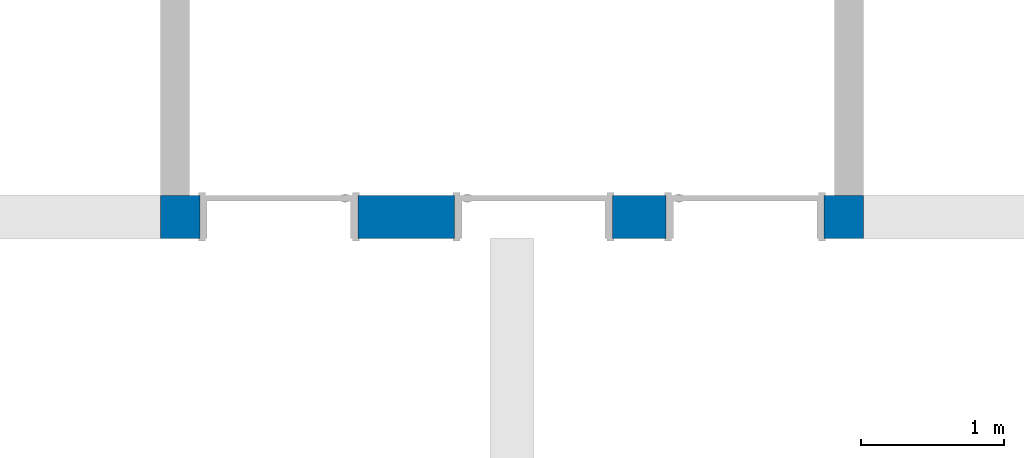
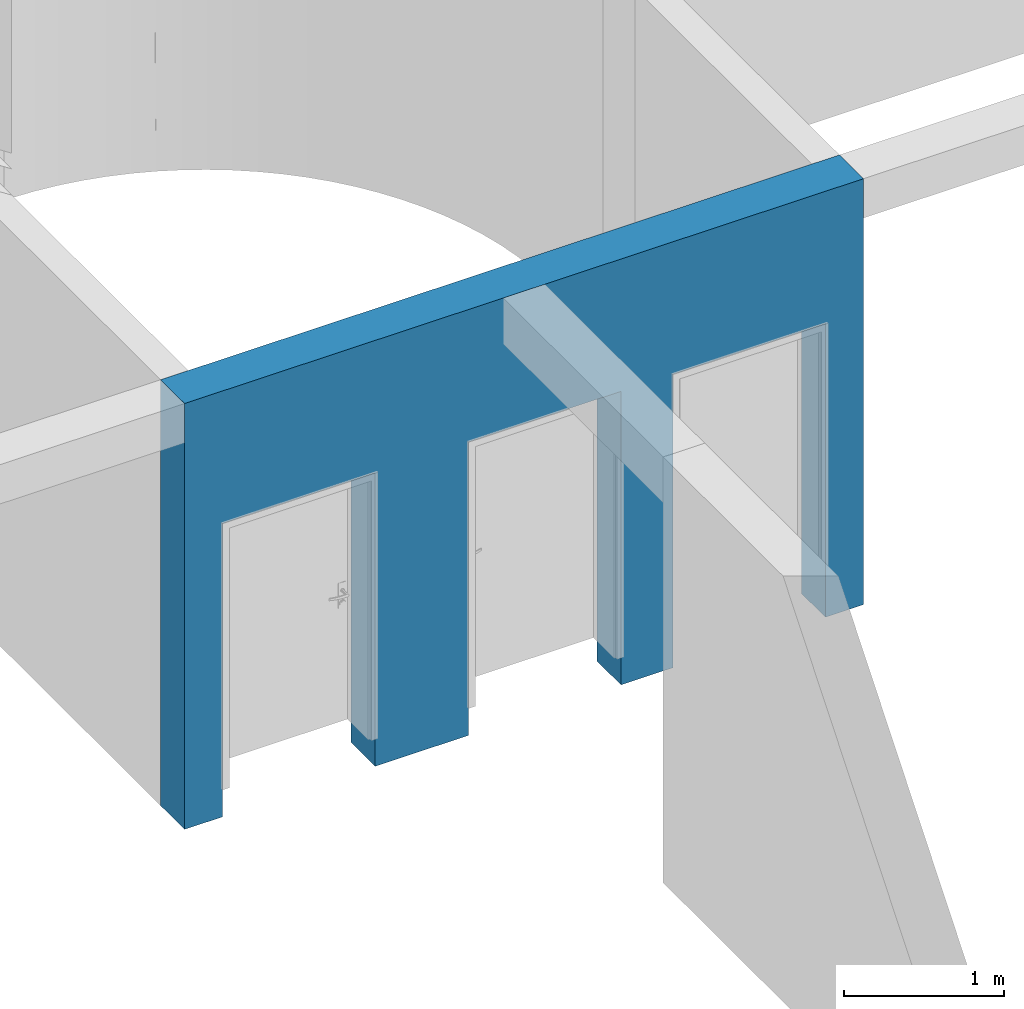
# One storey, part 4 of 8: 1 wall, 3 openings.
"""IFC4 building model written with IfcOpenShell, lengths in millimetres."""

from ifc_helpers import new_model, entity, si_unit, converted_unit, derived_unit, direction, frame, origin_with_axes, place, context, subcontext, project, spatial, polygons, material, constituent, constituent_set, type_object, element, save


model = new_model("IFC4")

# Units and contexts
model_context = context("Model", 3, precision=0.01, world=origin_with_axes(), true_north=direction((0.0, 1.0)))
body_context = subcontext(model_context, "Body", "Model", "MODEL_VIEW")
ifc_project = project(units=[si_unit("LENGTHUNIT", "METRE", prefix="MILLI"), si_unit("AREAUNIT", "SQUARE_METRE"), si_unit("VOLUMEUNIT", "CUBIC_METRE"), converted_unit("PLANEANGLEUNIT", "DEGREE", entity("IfcPlaneAngleMeasure", 0.0174532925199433), si_unit("PLANEANGLEUNIT", "RADIAN"), dimensions=[0, 0, 0, 0, 0, 0, 0]), converted_unit("TIMEUNIT", "Year", entity("IfcTimeMeasure", 31557600.0), si_unit("TIMEUNIT", "SECOND"), dimensions=[0, 0, 1, 0, 0, 0, 0]), si_unit("MASSUNIT", "GRAM", prefix="KILO"), si_unit("THERMODYNAMICTEMPERATUREUNIT", "DEGREE_CELSIUS"), si_unit("LUMINOUSINTENSITYUNIT", "LUMEN"), si_unit("ENERGYUNIT", "JOULE", prefix="MEGA"), derived_unit("THERMALCONDUCTANCEUNIT", [(si_unit("POWERUNIT", "WATT"), 1), (si_unit("LENGTHUNIT", "METRE"), -1), (si_unit("THERMODYNAMICTEMPERATUREUNIT", "KELVIN"), -1)]), derived_unit("SPECIFICHEATCAPACITYUNIT", [(si_unit("ENERGYUNIT", "JOULE"), 1), (si_unit("MASSUNIT", "GRAM", prefix="KILO"), -1), (si_unit("THERMODYNAMICTEMPERATUREUNIT", "KELVIN"), -1)]), derived_unit("MASSDENSITYUNIT", [(si_unit("MASSUNIT", "GRAM", prefix="KILO"), 1), (si_unit("VOLUMEUNIT", "CUBIC_METRE"), -1)])], contexts=[model_context])

# Site, building, storey
site_placement = place(None, origin_with_axes())
site = spatial("IfcSite", under=ifc_project, at=site_placement, Name="Exteriér", CompositionType="ELEMENT")
building_placement = place(site_placement, origin_with_axes())
building = spatial("IfcBuilding", under=site, at=building_placement, Name="Univerzitní lezecké centrum", CompositionType="ELEMENT")
storey_placement = place(building_placement, frame((0.0, 0.0, -3350.0), z_axis=(0.0, 0.0, 1.0), x_axis=(1.0, 0.0, 0.0)))
storey = spatial("IfcBuildingStorey", under=building, at=storey_placement, Name="1.PP", CompositionType="ELEMENT", Elevation=-3350.0)

# Wall, openings
ifc_material = material(Name="Beton vyztužený - vnitřní svislé kce")
ifc_constituent = constituent(ifc_material, Name="Beton vyztužený - vnitřní svislé kce")
ifc_constituent_set = constituent_set(constituents=[ifc_constituent], Name="!Vnitřní betonová stěna 300 mm")
wall_type = type_object("IfcWallType", Name="!Vnitřní betonová stěna 300 mm 300", PredefinedType="NOTDEFINED")
wall_placement = place(storey_placement, frame((4899.951161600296, -300.0000000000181, -220.0000000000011), z_axis=(0.0, 0.0, 1.0), x_axis=(-1.0, 0.0, 0.0)))
wall = element("IfcWall", 1, at=wall_placement, inside=storey, type_object=wall_type, material=ifc_constituent_set, Name="St04", PredefinedType="NOTDEFINED", context=body_context, shape_type="Tessellation", body=[
    polygons([(4625.199025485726, -115.0000000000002, 0.500000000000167), (4625.199025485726, -300.0000000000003, 0.500000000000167), (4625.199025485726, -300.0000000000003, 220.0000000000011), (4625.199025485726, 0.0, 220.0000000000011), (4625.199074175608, 2.437535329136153e-05, 0.500000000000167), (4625.199025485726, -115.0000000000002, 0.0), (4625.199025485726, -300.0000000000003, 0.0), (4625.199074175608, 2.437535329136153e-05, 0.0), (275.0000000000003, -299.9999999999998, 0.0), (275.0000000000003, -299.9999999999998, 0.500000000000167), (275.0000000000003, -300.0000000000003, 220.0000000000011), (275.0000000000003, -299.9999999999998, 2240.000000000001), (1375.0, -300.0000000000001, 2240.000000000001), (1375.0, -300.0000000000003, 220.0000000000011), (1375.0, -300.0000000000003, 0.500000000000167), (1375.0, -300.0000000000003, 0.0), (1750.099512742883, -300.0000000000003, 0.0), (1750.099512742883, -300.0000000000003, 0.500000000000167), (1750.099512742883, -300.0000000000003, 220.0000000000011), (1750.099512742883, -299.9999999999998, 2240.000000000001), (2850.099512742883, -300.0000000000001, 2240.000000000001), (2850.099512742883, -300.0000000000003, 220.0000000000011), (2850.099512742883, -300.0000000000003, 0.500000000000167), (2850.099512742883, -300.0000000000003, 0.0), (3525.199025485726, -300.0000000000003, 0.0), (3525.199025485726, -300.0000000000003, 0.500000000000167), (3525.199025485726, -300.0000000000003, 220.0000000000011), (3525.199025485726, -300.0000000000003, 2240.000000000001), (4625.199025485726, -300.0000000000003, 2240.000000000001), (4900.199025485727, -300.0000000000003, 0.0), (4900.199025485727, -300.0000000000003, 3250.0), (0.0, -299.9999999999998, 3250.0), (0.0, -299.9999999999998, 0.0), (4625.199025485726, 0.0, 2240.000000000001), (1750.099522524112, -1.140831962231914e-05, 0.0), (1374.99993861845, -2.980235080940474e-05, 0.0), (1374.99993861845, -2.980235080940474e-05, 0.500000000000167), (1375.0, 0.0, 220.0000000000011), (1375.0, 0.0, 2240.000000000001), (275.0000000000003, 0.0, 2240.000000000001), (275.0000000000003, 0.0, 220.0000000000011), (274.9999818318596, -2.980235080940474e-05, 0.500000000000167), (274.9999818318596, -2.980235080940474e-05, 0.0), (0.0, 0.0, 0.0), (0.0, 0.0, 3250.0), (4900.199025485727, 0.0, 3250.0), (4900.199025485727, 0.0, 0.0), (3525.199025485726, 0.0, 2240.000000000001), (3525.199025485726, 0.0, 220.0000000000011), (3525.199072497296, 2.437535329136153e-05, 0.500000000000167), (3525.199072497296, 2.437535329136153e-05, 0.0), (2850.099499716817, -1.140831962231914e-05, 0.0), (2850.099499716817, -1.140831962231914e-05, 0.500000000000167), (2850.099512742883, 0.0, 220.0000000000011), (2850.099512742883, 0.0, 2240.000000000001), (1750.099512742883, 0.0, 2240.000000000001), (1750.099512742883, 0.0, 220.0000000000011), (1750.099522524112, -1.140831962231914e-05, 0.500000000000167), (275.0000000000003, -115.0000000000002, 0.500000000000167), (275.0000000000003, -115.0000000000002, 0.0), (1375.0, -115.0000000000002, 0.500000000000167), (1375.0, -115.0000000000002, 0.0), (1750.099512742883, -115.0000000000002, 0.0), (1750.099512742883, -115.0000000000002, 0.500000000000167), (2850.099512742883, -115.0000000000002, 0.500000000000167), (2850.099512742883, -115.0000000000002, 0.0), (3525.199025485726, -115.0000000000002, 0.0), (3525.199025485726, -115.0000000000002, 0.500000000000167)], [[[1, 2, 3, 4, 5]], [[6, 7, 2, 1, 5, 8]], [[9, 10, 11, 12, 13, 14, 15, 16, 17, 18, 19, 20, 21, 22, 23, 24, 25, 26, 27, 28, 29, 3, 2, 7, 30, 31, 32, 33]], [[4, 3, 29, 34]], [[35, 36, 37, 38, 39, 40, 41, 42, 43, 44, 45, 46, 47, 8, 5, 4, 34, 48, 49, 50, 51, 52, 53, 54, 55, 56, 57, 58]], [[7, 6, 8, 47, 30]], [[59, 10, 9, 60, 43, 42]], [[10, 59, 42, 41, 11]], [[41, 40, 12, 11]], [[40, 39, 13, 12]], [[39, 38, 14, 13]], [[61, 15, 14, 38, 37]], [[62, 16, 15, 61, 37, 36]], [[16, 62, 36, 35, 63, 17]], [[64, 18, 17, 63, 35, 58]], [[18, 64, 58, 57, 19]], [[20, 19, 57, 56]], [[21, 20, 56, 55]], [[22, 21, 55, 54]], [[65, 23, 22, 54, 53]], [[66, 24, 23, 65, 53, 52]], [[24, 66, 52, 51, 67, 25]], [[68, 26, 25, 67, 51, 50]], [[26, 68, 50, 49, 27]], [[48, 28, 27, 49]], [[34, 29, 28, 48]], [[47, 46, 31, 30]], [[46, 45, 32, 31]], [[44, 33, 32, 45]], [[60, 9, 33, 44, 43]]], closed=True),
])
opening_1_placement = place(wall_placement, frame((2300.099512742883, 0.0, 220.0000000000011), z_axis=(0.0, 0.0, 1.0), x_axis=(1.0, 0.0, 0.0)))
element("IfcOpeningElement", 2, at=opening_1_placement, cuts=wall, Name="D10", context=body_context, identifier="Reference", shape_type="Tessellation", body=[
    polygons([(549.9999999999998, 0.0, 2020.0), (-549.9999999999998, 0.0, 2020.0), (-549.9999999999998, -300.0000000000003, 2020.0), (549.9999999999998, -300.0000000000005, 2020.0), (-549.9999999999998, 0.0, 0.0), (549.9999999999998, 0.0, 0.0), (562.0000000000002, 0.0, 0.0), (562.0000000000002, 0.0, 2032.0), (-561.9999999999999, 0.0, 2032.0), (-561.9999999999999, 0.0, 0.0), (-549.9999999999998, -300.0000000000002, 0.0), (-562.0000000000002, -300.0000000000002, 0.0), (-562.0000000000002, -300.0000000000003, 2032.0), (562.0000000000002, -300.0000000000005, 2032.0), (562.0000000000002, -300.0000000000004, 0.0), (549.9999999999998, -300.0000000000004, 0.0), (549.9999999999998, 1.0000000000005, 0.0), (562.0000000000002, 1.0000000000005, 0.0), (562.0000000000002, 1.000000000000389, 2032.0), (-561.9999999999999, 1.000000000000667, 2032.0), (-561.9999999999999, 1.000000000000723, 0.0), (-549.9999999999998, 1.000000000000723, 0.0), (549.9999999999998, -301.0000000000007, 0.0), (-549.9999999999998, -301.0000000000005, 0.0), (-562.0000000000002, -301.0000000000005, 0.0), (-562.0000000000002, -301.0000000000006, 2032.0), (562.0000000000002, -301.0000000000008, 2032.0), (562.0000000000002, -301.0000000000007, 0.0), (549.9999999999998, 1.000000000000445, 2020.0), (-549.9999999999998, 1.000000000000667, 2020.0)], [[[1, 2, 3, 4]], [[5, 2, 1, 6, 7, 8, 9, 10]], [[2, 5, 11, 3]], [[4, 3, 11, 12, 13, 14, 15, 16]], [[6, 1, 4, 16]], [[6, 17, 18, 7]], [[8, 7, 18, 19]], [[9, 8, 19, 20]], [[10, 9, 20, 21]], [[22, 5, 10, 21]], [[17, 6, 16, 23, 24, 11, 5, 22]], [[11, 24, 25, 12]], [[13, 12, 25, 26]], [[14, 13, 26, 27]], [[15, 14, 27, 28]], [[23, 16, 15, 28]], [[29, 30, 22, 21, 20, 19, 18, 17]], [[24, 23, 28, 27, 26, 25]], [[29, 17, 22, 30]]], closed=True),
])
opening_2_placement = place(wall_placement, frame((4075.199025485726, 0.0, 220.0000000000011), z_axis=(0.0, 0.0, 1.0), x_axis=(1.0, 0.0, 0.0)))
element("IfcOpeningElement", 3, at=opening_2_placement, cuts=wall, Name="D09", context=body_context, identifier="Reference", shape_type="Tessellation", body=[
    polygons([(550.0, 0.0, 2020.0), (-550.0, 0.0, 2020.0), (-550.0, -300.0000000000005, 2020.0), (550.0, -300.0000000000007, 2020.0), (-550.0, 0.0, 0.0), (550.0, 0.0, 0.0), (562.0000000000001, 0.0, 0.0), (562.0000000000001, 0.0, 2032.0), (-561.9999999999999, 0.0, 2032.0), (-561.9999999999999, 0.0, 0.0), (-550.0, -300.0000000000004, 0.0), (-562.0, -300.0000000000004, 0.0), (-562.0, -300.0000000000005, 2032.0), (562.0, -300.0000000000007, 2032.0), (562.0, -300.0000000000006, 0.0), (550.0, -300.0000000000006, 0.0), (550.0, 1.000000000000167, 0.0), (562.0000000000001, 1.000000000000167, 0.0), (562.0000000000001, 1.000000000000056, 2032.0), (-561.9999999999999, 1.000000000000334, 2032.0), (-561.9999999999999, 1.000000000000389, 0.0), (-550.0000000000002, 1.000000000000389, 0.0), (550.0, -301.0000000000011, 0.0), (-550.0, -301.0000000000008, 0.0), (-562.0, -301.0000000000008, 0.0), (-562.0, -301.000000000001, 2032.0), (562.0, -301.0000000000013, 2032.0), (562.0, -301.0000000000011, 0.0), (550.0, 1.000000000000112, 2020.0), (-550.0, 1.000000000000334, 2020.0)], [[[1, 2, 3, 4]], [[5, 2, 1, 6, 7, 8, 9, 10]], [[2, 5, 11, 3]], [[4, 3, 11, 12, 13, 14, 15, 16]], [[6, 1, 4, 16]], [[6, 17, 18, 7]], [[8, 7, 18, 19]], [[9, 8, 19, 20]], [[10, 9, 20, 21]], [[22, 5, 10, 21]], [[17, 6, 16, 23, 24, 11, 5, 22]], [[11, 24, 25, 12]], [[13, 12, 25, 26]], [[14, 13, 26, 27]], [[15, 14, 27, 28]], [[23, 16, 15, 28]], [[29, 30, 22, 21, 20, 19, 18, 17]], [[24, 23, 28, 27, 26, 25]], [[29, 17, 22, 30]]], closed=True),
])
opening_3_placement = place(wall_placement, frame((825.0000000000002, 0.0, 220.0000000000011), z_axis=(0.0, 0.0, 1.0), x_axis=(1.0, 0.0, 0.0)))
element("IfcOpeningElement", 4, at=opening_3_placement, cuts=wall, Name="D10", context=body_context, identifier="Reference", shape_type="Tessellation", body=[
    polygons([(549.9999999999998, 0.0, 2020.0), (-549.9999999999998, 0.0, 2020.0), (-549.9999999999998, -300.0000000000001, 2020.0), (549.9999999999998, -300.0000000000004, 2020.0), (-549.9999999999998, 0.0, 0.0), (549.9999999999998, 0.0, 0.0), (562.0000000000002, 0.0, 0.0), (562.0000000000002, 0.0, 2032.0), (-562.0000000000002, 0.0, 2032.0), (-562.0000000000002, 0.0, 0.0), (-549.9999999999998, -299.9999999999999, 0.0), (-562.0000000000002, -299.9999999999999, 0.0), (-562.0000000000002, -300.0000000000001, 2032.0), (562.0000000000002, -300.0000000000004, 2032.0), (562.0000000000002, -300.0000000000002, 0.0), (549.9999999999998, -300.0000000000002, 0.0), (549.9999999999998, 1.000000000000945, 0.0), (562.0000000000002, 1.000000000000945, 0.0), (562.0000000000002, 1.000000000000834, 2032.0), (-562.0000000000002, 1.000000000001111, 2032.0), (-562.0000000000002, 1.000000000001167, 0.0), (-549.9999999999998, 1.000000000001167, 0.0), (549.9999999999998, -301.0000000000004, 0.0), (-549.9999999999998, -301.0000000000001, 0.0), (-562.0000000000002, -301.0000000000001, 0.0), (-562.0000000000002, -301.0000000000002, 2032.0), (562.0000000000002, -301.0000000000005, 2032.0), (562.0000000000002, -301.0000000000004, 0.0), (549.9999999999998, 1.000000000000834, 2020.0), (-549.9999999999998, 1.000000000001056, 2020.0)], [[[1, 2, 3, 4]], [[5, 2, 1, 6, 7, 8, 9, 10]], [[2, 5, 11, 3]], [[4, 3, 11, 12, 13, 14, 15, 16]], [[6, 1, 4, 16]], [[6, 17, 18, 7]], [[8, 7, 18, 19]], [[9, 8, 19, 20]], [[10, 9, 20, 21]], [[22, 5, 10, 21]], [[17, 6, 16, 23, 24, 11, 5, 22]], [[11, 24, 25, 12]], [[13, 12, 25, 26]], [[14, 13, 26, 27]], [[15, 14, 27, 28]], [[23, 16, 15, 28]], [[29, 30, 22, 21, 20, 19, 18, 17]], [[24, 23, 28, 27, 26, 25]], [[29, 17, 22, 30]]], closed=True),
])

save(model, "model.ifc")
